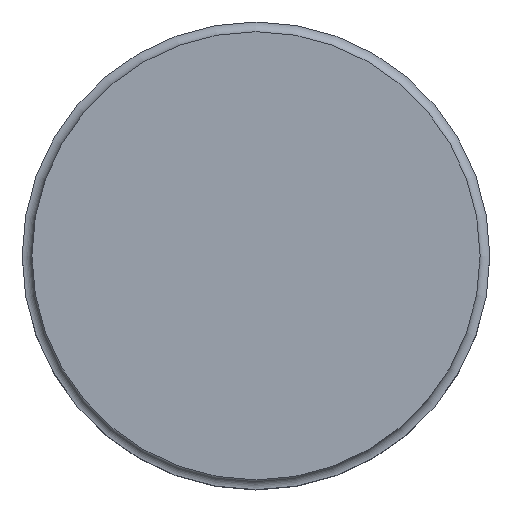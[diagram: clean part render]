
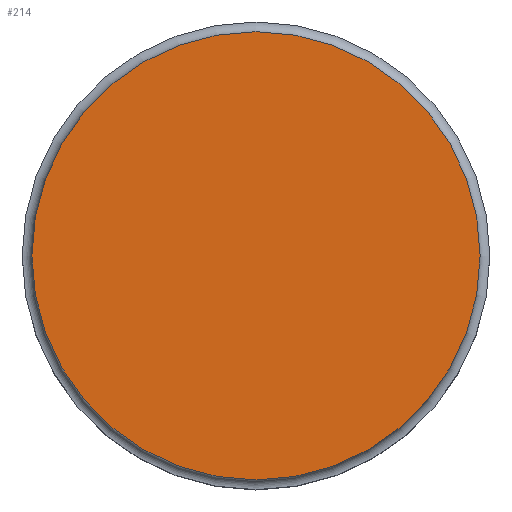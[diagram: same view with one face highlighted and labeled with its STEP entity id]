
A CAD part, top view. The second image highlights one B-rep face of the part: STEP entity #214.
In plain terms, the highlighted planar face has unit normal (0, 0, 1).
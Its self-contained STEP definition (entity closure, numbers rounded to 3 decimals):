
#18=PLANE('',#253);
#63=FACE_OUTER_BOUND('',#99,.T.);
#99=EDGE_LOOP('',(#189));
#110=CIRCLE('',#233,5.75);
#128=VERTEX_POINT('',#357);
#146=EDGE_CURVE('',#128,#128,#110,.T.);
#189=ORIENTED_EDGE('',*,*,#146,.T.);
#214=ADVANCED_FACE('',(#63),#18,.F.);
#233=AXIS2_PLACEMENT_3D('',#358,#288,#289);
#253=AXIS2_PLACEMENT_3D('',#385,#328,#329);
#288=DIRECTION('center_axis',(0.,0.,1.));
#289=DIRECTION('ref_axis',(1.,0.,0.));
#328=DIRECTION('center_axis',(0.,0.,-1.));
#329=DIRECTION('ref_axis',(-1.,0.,0.));
#357=CARTESIAN_POINT('',(71.493,0.,11.));
#358=CARTESIAN_POINT('Origin',(77.243,0.,11.));
#385=CARTESIAN_POINT('Origin',(80.993,0.,11.));
